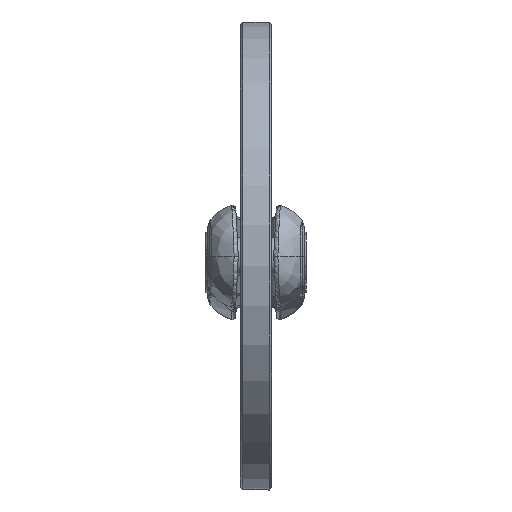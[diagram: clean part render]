
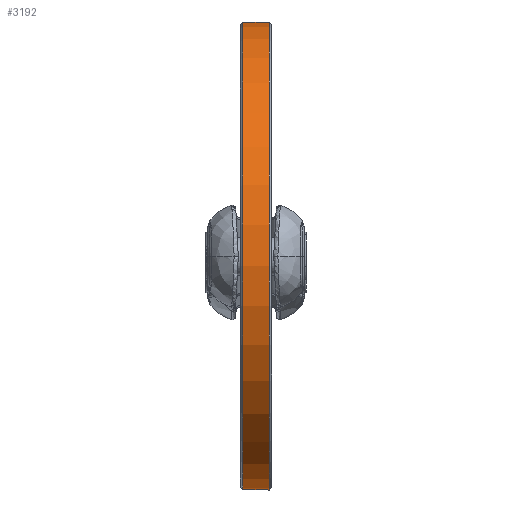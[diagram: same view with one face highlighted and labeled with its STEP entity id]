
A CAD part, top view. The second image highlights one B-rep face of the part: STEP entity #3192.
In plain terms, the highlighted cylindrical face has radius 185 mm (diameter 370 mm), a full revolution.
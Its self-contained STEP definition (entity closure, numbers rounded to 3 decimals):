
#778=FACE_BOUND($,#1476,.T.);
#967=CIRCLE($,#3547,185.);
#968=CIRCLE($,#3549,185.);
#1168=FACE_OUTER_BOUND($,#1475,.T.);
#1475=EDGE_LOOP($,(#2926));
#1476=EDGE_LOOP($,(#2927));
#1768=VERTEX_POINT($,#13857);
#1769=VERTEX_POINT($,#13860);
#2159=EDGE_CURVE($,#1768,#1768,#967,.T.);
#2160=EDGE_CURVE($,#1769,#1769,#968,.T.);
#2926=ORIENTED_EDGE($,*,*,#2160,.F.);
#2927=ORIENTED_EDGE($,*,*,#2159,.F.);
#2979=CYLINDRICAL_SURFACE($,#3548,185.);
#3192=ADVANCED_FACE($,(#1168,#778),#2979,.T.);
#3547=AXIS2_PLACEMENT_3D($,#13858,#4314,#4315);
#3548=AXIS2_PLACEMENT_3D($,#13859,#4316,#4317);
#3549=AXIS2_PLACEMENT_3D($,#13861,#4318,#4319);
#4314=DIRECTION('center_axis',(0.,0.,-1.));
#4315=DIRECTION('ref_axis',(-1.,0.,0.));
#4316=DIRECTION('center_axis',(0.,0.,1.));
#4317=DIRECTION('ref_axis',(-1.,0.,0.));
#4318=DIRECTION('center_axis',(0.,0.,1.));
#4319=DIRECTION('ref_axis',(-1.,0.,0.));
#13857=CARTESIAN_POINT('',(185.,0.,-10.5));
#13858=CARTESIAN_POINT('Origin',(0.,0.,-10.5));
#13859=CARTESIAN_POINT('Origin',(0.,0.,0.));
#13860=CARTESIAN_POINT('',(185.,0.,10.5));
#13861=CARTESIAN_POINT('Origin',(0.,0.,10.5));
